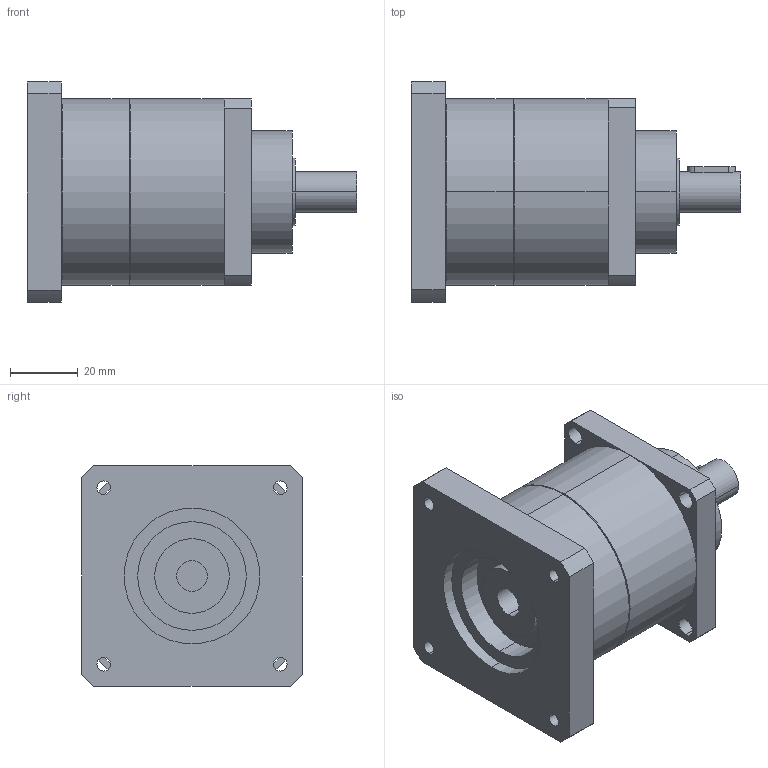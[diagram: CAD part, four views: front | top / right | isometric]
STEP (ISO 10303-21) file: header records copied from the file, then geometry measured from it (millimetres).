
FILE_DESCRIPTION(('CoCreate Modeling STEP Export'),'2;1');
FILE_NAME('GPT55_ig-3-4-5-7-10_12_B5A_9_P34.stp','2014-08-25T14:36:13',(''),(''),'CoCreate Modeling STEP processor for AP214 (Solid Model)','CoCreate Modeling 16.00C 25-Feb-2009 (C) Parametric Technology GmbH','');
FILE_SCHEMA(('AUTOMOTIVE_DESIGN { 1 0 10303 214 1 1 1 1 }'));
Length unit declared in the file: millimetre
Products named in the file (2): GPT55_ig-3-4-5-7-10_12_B5A_9_P34
Assembly tree (1 placements, depth 2):
  GPT55_ig-3-4-5-7-10_12_B5A_9_P34
    GPT55_ig-3-4-5-7-10_12_B5A_9_P34
Bounding box: 97 x 65 x 65 mm (x, y, z)
Volume: 183422.3 mm3; surface area: 27330.5 mm2
Topology: 1 solids, 1 shells, 77 faces, 204 edges, 139 vertices
Faces by surface type: cylinder 46, plane 27, cone 4
Entity records: 2515 total; most frequent: CARTESIAN_POINT 710, ORIENTED_EDGE 408, DIRECTION 318, EDGE_CURVE 204, VERTEX_POINT 139, AXIS2_PLACEMENT_3D 117, EDGE_LOOP 103, VECTOR 84
